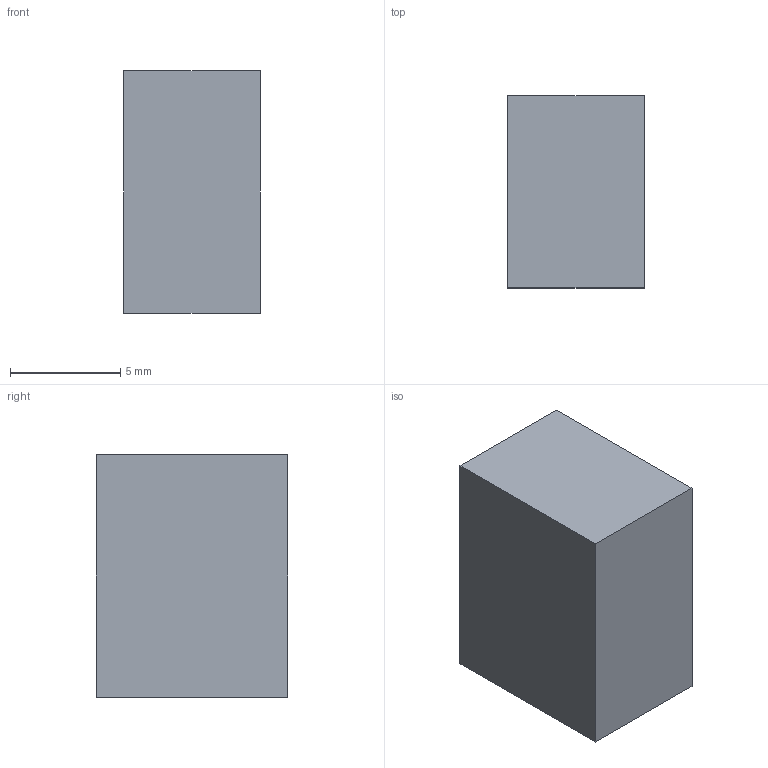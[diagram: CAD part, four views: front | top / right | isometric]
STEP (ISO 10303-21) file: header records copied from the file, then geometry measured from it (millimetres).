
FILE_DESCRIPTION(/* description */ (''),/* implementation_level */ '2;1');
FILE_NAME(/* name */ 'CHECK_J2_PHR_and_wire_turn.step',/* time_stamp */ '2026-09-16T19:15:04-07:00',/* author */ (''),/* organization */ (''),/* preprocessor_version */ 'ST-DEVELOPER v20.1',/* originating_system */ 'Autodesk Translation Framework v15.8.0.0',/* authorisation */ '');
FILE_SCHEMA (('AUTOMOTIVE_DESIGN { 1 0 10303 214 3 1 1 }'));
Length unit declared in the file: centimetre
Products named in the file (1): 2026-09-16-19-15-04-666
Bounding box: 6.2 x 8.7 x 11.02 mm (x, y, z)
Volume: 594.1 mm3; surface area: 436.1 mm2
Topology: 1 solids, 1 shells, 6 faces, 12 edges, 8 vertices
Faces by surface type: plane 6
Entity records: 196 total; most frequent: CARTESIAN_POINT 27, DIRECTION 26, ORIENTED_EDGE 24, LINE 12, VECTOR 12, EDGE_CURVE 12, VERTEX_POINT 8, AXIS2_PLACEMENT_3D 7
